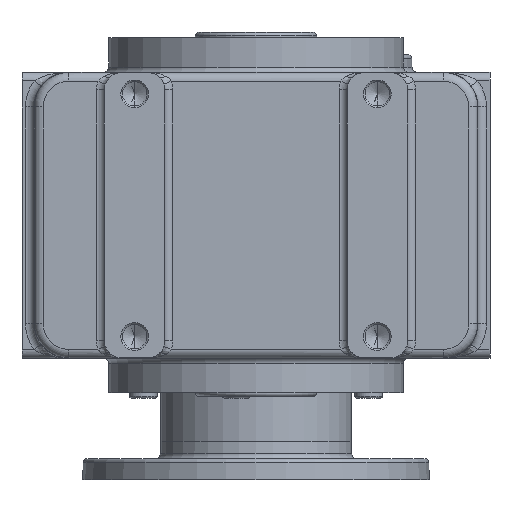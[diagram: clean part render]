
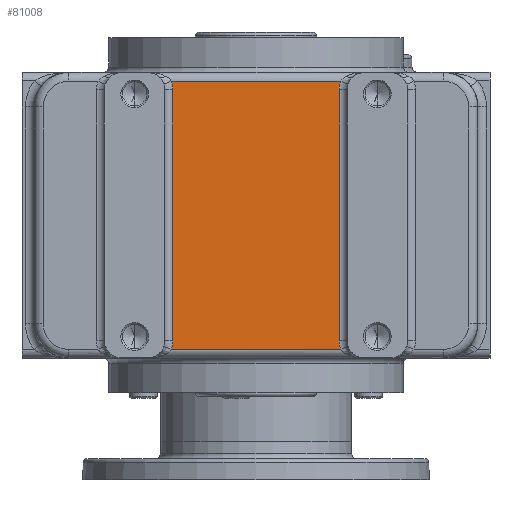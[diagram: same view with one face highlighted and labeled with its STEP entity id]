
A CAD part, front view. The second image highlights one B-rep face of the part: STEP entity #81008.
In plain terms, the highlighted planar face has unit normal (0, -1, 0).
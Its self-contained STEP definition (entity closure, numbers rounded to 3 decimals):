
#67321 = CARTESIAN_POINT ( 'NONE',  ( 47.944, -120., 10.175 ) ) ;
#67323 = DIRECTION ( 'NONE',  ( 0., 0., 1. ) ) ;
#67325 = VECTOR ( 'NONE', #67323, 1000. ) ;
#67327 = CARTESIAN_POINT ( 'NONE',  ( 47.944, -120., 154.825 ) ) ;
#67328 = LINE ( 'NONE', #67327, #67325 ) ;
#67333 = DIRECTION ( 'NONE',  ( 0., 0., -1. ) ) ;
#67335 = DIRECTION ( 'NONE',  ( 0., -1., 0. ) ) ;
#67337 = CARTESIAN_POINT ( 'NONE',  ( -108., -120., 145. ) ) ;
#67339 = AXIS2_PLACEMENT_3D ( 'NONE', #67337, #67335, #67333 ) ;
#67341 = PLANE ( 'NONE',  #67339 ) ;
#67346 = FACE_OUTER_BOUND ( 'NONE', #81009, .T. ) ;
#67600 = DIRECTION ( 'NONE',  ( 0., 0., -1. ) ) ;
#67602 = DIRECTION ( 'NONE',  ( 0., 1., 0. ) ) ;
#67604 = CARTESIAN_POINT ( 'NONE',  ( -62.5, -120., 10.175 ) ) ;
#67605 = AXIS2_PLACEMENT_3D ( 'NONE', #67604, #67602, #67600 ) ;
#67607 = CIRCLE ( 'NONE', #67605, 14.556 ) ;
#67614 = DIRECTION ( 'NONE',  ( 1., 0., 0. ) ) ;
#67615 = VECTOR ( 'NONE', #67614, 1000. ) ;
#67617 = CARTESIAN_POINT ( 'NONE',  ( 62.5, -120., 5.131 ) ) ;
#67619 = LINE ( 'NONE', #67617, #67615 ) ;
#67647 = CARTESIAN_POINT ( 'NONE',  ( 48.845, -120., 159.869 ) ) ;
#67649 = DIRECTION ( 'NONE',  ( 0., 0., -1. ) ) ;
#67651 = DIRECTION ( 'NONE',  ( 0., 1., 0. ) ) ;
#67653 = CARTESIAN_POINT ( 'NONE',  ( 62.5, -120., 154.825 ) ) ;
#67654 = AXIS2_PLACEMENT_3D ( 'NONE', #67653, #67651, #67649 ) ;
#67656 = CIRCLE ( 'NONE', #67654, 14.556 ) ;
#67662 = CARTESIAN_POINT ( 'NONE',  ( 47.944, -120., 154.825 ) ) ;
#67864 = CARTESIAN_POINT ( 'NONE',  ( 62.5, -120., 10.175 ) ) ;
#67877 = CARTESIAN_POINT ( 'NONE',  ( -48.845, -120., 5.131 ) ) ;
#67897 = DIRECTION ( 'NONE',  ( 0., 0., -1. ) ) ;
#67898 = VECTOR ( 'NONE', #67897, 1000. ) ;
#67900 = CARTESIAN_POINT ( 'NONE',  ( -47.944, -120., 10.175 ) ) ;
#67902 = LINE ( 'NONE', #67900, #67898 ) ;
#67909 = DIRECTION ( 'NONE',  ( 0., 0., -1. ) ) ;
#67911 = DIRECTION ( 'NONE',  ( 0., 1., 0. ) ) ;
#67913 = CARTESIAN_POINT ( 'NONE',  ( -62.5, -120., 154.825 ) ) ;
#67915 = AXIS2_PLACEMENT_3D ( 'NONE', #67913, #67911, #67909 ) ;
#67916 = CIRCLE ( 'NONE', #67915, 14.556 ) ;
#67985 = DIRECTION ( 'NONE',  ( -1., 0., 0. ) ) ;
#67986 = VECTOR ( 'NONE', #67985, 1000. ) ;
#67988 = CARTESIAN_POINT ( 'NONE',  ( -62.5, -120., 159.869 ) ) ;
#67990 = LINE ( 'NONE', #67988, #67986 ) ;
#67995 = CARTESIAN_POINT ( 'NONE',  ( -47.944, -120., 154.825 ) ) ;
#67998 = CARTESIAN_POINT ( 'NONE',  ( 48.845, -120., 5.131 ) ) ;
#68013 = DIRECTION ( 'NONE',  ( 0., 0., -1. ) ) ;
#68015 = DIRECTION ( 'NONE',  ( 0., 1., 0. ) ) ;
#68017 = AXIS2_PLACEMENT_3D ( 'NONE', #67864, #68015, #68013 ) ;
#68019 = CIRCLE ( 'NONE', #68017, 14.556 ) ;
#68021 = CARTESIAN_POINT ( 'NONE',  ( -48.845, -120., 159.869 ) ) ;
#68099 = CARTESIAN_POINT ( 'NONE',  ( -47.944, -120., 10.175 ) ) ;
#81008 = ADVANCED_FACE ( 'NONE', ( #67346 ), #67341, .T. ) ;
#81009 = EDGE_LOOP ( 'NONE', ( #81010, #81059, #81109, #81118, #81106, #81050, #81048, #81115 ) ) ;
#81010 = ORIENTED_EDGE ( 'NONE', *, *, #81011, .T. ) ;
#81011 = EDGE_CURVE ( 'NONE', #81012, #81058, #67328, .T. ) ;
#81012 = VERTEX_POINT ( 'NONE', #67321 ) ;
#81048 = ORIENTED_EDGE ( 'NONE', *, *, #81049, .T. ) ;
#81049 = EDGE_CURVE ( 'NONE', #81114, #81123, #67619, .T. ) ;
#81050 = ORIENTED_EDGE ( 'NONE', *, *, #81051, .T. ) ;
#81051 = EDGE_CURVE ( 'NONE', #81136, #81114, #67607, .T. ) ;
#81058 = VERTEX_POINT ( 'NONE', #67662 ) ;
#81059 = ORIENTED_EDGE ( 'NONE', *, *, #81060, .T. ) ;
#81060 = EDGE_CURVE ( 'NONE', #81058, #81061, #67656, .T. ) ;
#81061 = VERTEX_POINT ( 'NONE', #67647 ) ;
#81105 = EDGE_CURVE ( 'NONE', #81117, #81124, #67916, .T. ) ;
#81106 = ORIENTED_EDGE ( 'NONE', *, *, #81108, .T. ) ;
#81108 = EDGE_CURVE ( 'NONE', #81124, #81136, #67902, .T. ) ;
#81109 = ORIENTED_EDGE ( 'NONE', *, *, #81125, .T. ) ;
#81114 = VERTEX_POINT ( 'NONE', #67877 ) ;
#81115 = ORIENTED_EDGE ( 'NONE', *, *, #81116, .T. ) ;
#81116 = EDGE_CURVE ( 'NONE', #81123, #81012, #68019, .T. ) ;
#81117 = VERTEX_POINT ( 'NONE', #68021 ) ;
#81118 = ORIENTED_EDGE ( 'NONE', *, *, #81105, .T. ) ;
#81123 = VERTEX_POINT ( 'NONE', #67998 ) ;
#81124 = VERTEX_POINT ( 'NONE', #67995 ) ;
#81125 = EDGE_CURVE ( 'NONE', #81061, #81117, #67990, .T. ) ;
#81136 = VERTEX_POINT ( 'NONE', #68099 ) ;
